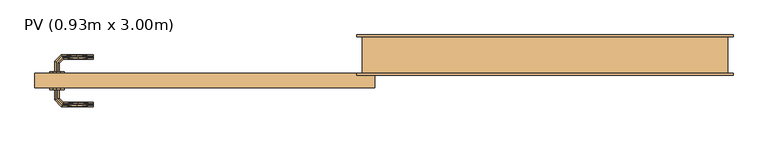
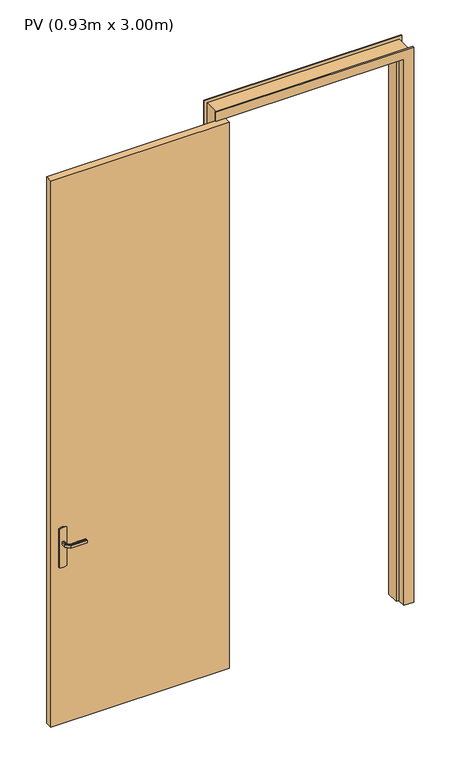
"""IFC4 building model written with IfcOpenShell, lengths in millimetres: door geometry, PV (0.93m x 3.00m)."""

from ifc_helpers import new_model, si_unit, frame, origin, origin_with_axes, place, context, project, spatial, polyline, outline, extrude, faceted_brep, source, transform, mapped, element, save


def pv_0_93m_x_3_00m_f64e4307(model_context):
    return source(origin(), model_context, "Body", "SolidModel", [
        extrude(outline(polyline([(1085.3589838, -765.0), (1083.9960169, -775.3527618), (1080.0, -785.0), (870.0, -785.0), (866.0039831, -775.3527618), (864.6410162, -765.0), (866.0039831, -754.6472382), (870.0, -745.0), (1080.0, -745.0), (1083.9960169, -754.6472382), (1085.3589838, -765.0)])), frame((0.0, -45.0, 0.0), z_axis=(0.0, 1.0, 0.0), x_axis=(0.0, 0.0, 1.0)), (0.0, 0.0, 1.0), 5.0),
        extrude(outline(polyline([(-825.0, -40.0), (-825.0, 0.0), (105.0, 0.0), (105.0, -40.0), (-825.0, -40.0)])), origin_with_axes(), (0.0, 0.0, 1.0), 3010.0),
        extrude(outline(polyline([(1080.0, -785.0), (870.0, -785.0), (866.0039831, -775.3527618), (864.6410162, -765.0), (866.0039831, -754.6472382), (870.0, -745.0), (1080.0, -745.0), (1083.9960169, -754.6472382), (1085.3589838, -765.0), (1083.9960169, -775.3527618), (1080.0, -785.0)])), frame((0.0, 0.0, 0.0), z_axis=(0.0, 1.0, 0.0), x_axis=(0.0, 0.0, 1.0)), (0.0, 0.0, 1.0), 5.0),
        faceted_brep([(1070.0, 100.0, 0.0), (1070.0, 0.0, 0.0), (1085.0, 0.0, 0.0), (1085.0, -5.0, 0.0), (1035.0, -5.0, 0.0), (1035.0, 40.0, 0.0), (1020.0, 40.0, 0.0), (1020.0, 105.0, 0.0), (1085.0, 105.0, 0.0), (1085.0, 100.0, 0.0), (1085.0, 100.0, 3060.0), (55.0, 100.0, 3060.0), (55.0, 100.0, 0.0), (70.0, 100.0, 0.0), (70.0, 100.0, 3045.0), (1070.0, 100.0, 3045.0), (1085.0, 105.0, 3060.0), (1020.0, 105.0, 2995.0), (120.0, 105.0, 2995.0), (120.0, 105.0, 0.0), (55.0, 105.0, 0.0), (55.0, 105.0, 3060.0), (1020.0, 40.0, 2995.0), (1035.0, 40.0, 3010.0), (105.0, 40.0, 3010.0), (105.0, 40.0, 0.0), (120.0, 40.0, 0.0), (120.0, 40.0, 2995.0), (1035.0, -5.0, 3010.0), (1085.0, -5.0, 3060.0), (55.0, -5.0, 3060.0), (55.0, -5.0, 0.0), (105.0, -5.0, 0.0), (105.0, -5.0, 3010.0), (1085.0, 0.0, 3060.0), (1070.0, 0.0, 3045.0), (70.0, 0.0, 3045.0), (70.0, 0.0, 0.0), (55.0, 0.0, 0.0), (55.0, 0.0, 3060.0)], [[[0, 1, 2, 3, 4, 5, 6, 7, 8, 9]], [[9, 10, 11, 12, 13, 14, 15, 0]], [[8, 16, 10, 9]], [[7, 17, 18, 19, 20, 21, 16, 8]], [[7, 6, 22, 17]], [[5, 23, 24, 25, 26, 27, 22, 6]], [[5, 4, 28, 23]], [[3, 29, 30, 31, 32, 33, 28, 4]], [[2, 34, 29, 3]], [[1, 35, 36, 37, 38, 39, 34, 2]], [[0, 15, 35, 1]], [[14, 13, 37, 36]], [[13, 12, 20, 19, 26, 25, 32, 31, 38, 37]], [[21, 20, 12, 11]], [[27, 26, 19, 18]], [[33, 32, 25, 24]], [[39, 38, 31, 30]], [[15, 14, 36, 35]], [[16, 21, 11, 10]], [[22, 27, 18, 17]], [[28, 33, 24, 23]], [[34, 39, 30, 29]]]),
        faceted_brep([(-762.9747013, -45.0, 992.2195592), (-767.0252987, -45.0, 992.2195592), (-771.0, -45.0, 993.0), (-771.0, -45.0, 1007.0), (-767.0252987, -45.0, 1007.7804408), (-762.9747013, -45.0, 1007.7804408), (-759.0, -45.0, 1007.0), (-759.0, -45.0, 993.0), (-759.0, -67.4852045, 1007.0), (-759.0, -67.4852045, 993.0), (-762.9747013, -69.1315797, 1007.7804408), (-767.0252987, -70.8093921, 1007.7804408), (-750.8389062, -86.9957845, 1007.7804408), (-749.1610938, -82.9451872, 1007.7804408), (-771.0, -72.4557673, 1007.0), (-771.0, -72.4557673, 993.0), (-767.0252987, -70.8093921, 992.2195592), (-762.9747013, -69.1315797, 992.2195592), (-749.1610938, -82.9451872, 992.2195592), (-750.8389062, -86.9957845, 992.2195592), (-747.5147186, -78.9704859, 1007.0), (-747.5147186, -78.9704859, 993.0), (-752.4852814, -90.9704859, 1007.0), (-752.4852814, -90.9704859, 993.0), (-664.9542163, -82.9451872, 1007.7804408), (-664.9542163, -86.9957845, 1007.7804408), (-664.9542163, -90.9704859, 1007.0), (-664.9542163, -90.9704859, 993.0), (-664.9542163, -86.9957845, 992.2195592), (-664.9542163, -82.9451872, 992.2195592), (-664.9542163, -78.9704859, 993.0), (-664.9542163, -78.9704859, 1007.0), (-706.2344675, -78.9704859, 1007.0), (-706.2344794, -78.9704859, 993.0), (-707.0576551, -84.9704859, 1007.8786868), (-712.5547942, -90.9704859, 1007.0), (-712.5547957, -90.9704859, 993.0), (-707.0576549, -84.9704858, 992.1213132)], [[[0, 1, 2, 3, 4, 5, 6, 7]], [[8, 9, 7, 6]], [[5, 10, 8, 6]], [[5, 4, 11, 12, 13, 10]], [[3, 14, 11, 4]], [[14, 3, 2, 15]], [[2, 1, 16, 15]], [[1, 0, 17, 18, 19, 16]], [[0, 7, 9, 17]], [[20, 21, 9, 8]], [[8, 10, 13, 20]], [[14, 22, 12, 11]], [[23, 22, 14, 15]], [[15, 16, 19, 23]], [[17, 9, 21, 18]], [[24, 25, 26, 27, 28, 29, 30, 31]], [[21, 20, 32, 31, 30, 33]], [[34, 24, 32]], [[25, 34, 35]], [[13, 32, 20]], [[24, 31, 32]], [[25, 35, 26]], [[35, 12, 22]], [[34, 12, 35]], [[34, 13, 12]], [[34, 32, 13]], [[24, 34, 25]], [[22, 23, 36, 27, 26, 35]], [[37, 28, 36]], [[36, 28, 27]], [[36, 23, 19]], [[18, 33, 37]], [[33, 18, 21]], [[30, 29, 33]], [[37, 29, 28]], [[37, 33, 29]], [[37, 36, 19]], [[18, 37, 19]]]),
        faceted_brep([(-762.9747013, 5.0, 1007.7804408), (-767.0252987, 5.0, 1007.7804408), (-771.0, 5.0, 1007.0), (-771.0, 5.0, 993.0), (-767.0252987, 5.0, 992.2195592), (-762.9747013, 5.0, 992.2195592), (-759.0, 5.0, 993.0), (-759.0, 5.0, 1007.0), (-767.0252987, 31.0045755, 1007.7804408), (-771.0, 32.6509507, 1007.0), (-762.9747013, 29.3267632, 1007.7804408), (-749.2986025, 43.002862, 1007.7804408), (-750.9764148, 47.0534593, 1007.7804408), (-759.0, 27.680388, 1007.0), (-759.0, 27.680388, 993.0), (-762.9747013, 29.3267632, 992.2195592), (-767.0252987, 31.0045755, 992.2195592), (-750.9764148, 47.0534593, 992.2195592), (-749.2986025, 43.002862, 992.2195592), (-771.0, 32.6509507, 993.0), (-752.62279, 51.0281607, 1007.0), (-747.6522273, 39.0281607, 1007.0), (-747.6522273, 39.0281607, 993.0), (-752.62279, 51.0281607, 993.0), (-664.9813594, 51.0281607, 1007.0), (-664.9813594, 47.0534593, 1007.7804408), (-664.9813594, 43.002862, 1007.7804408), (-664.9813594, 39.0281607, 1007.0), (-664.9813594, 39.0281607, 993.0), (-664.9813594, 43.002862, 992.2195592), (-664.9813594, 47.0534593, 992.2195592), (-664.9813594, 51.0281607, 993.0), (-707.1399809, 45.0281607, 1007.8786868), (-712.6923028, 51.0281607, 1007.0), (-706.3167933, 39.0281607, 1007.0), (-706.3167933, 39.0281607, 993.0), (-707.1399811, 45.0281608, 992.1213132), (-712.6923104, 51.0281607, 993.0)], [[[0, 1, 2, 3, 4, 5, 6, 7]], [[2, 1, 8, 9]], [[1, 0, 10, 11, 12, 8]], [[0, 7, 13, 10]], [[14, 13, 7, 6]], [[5, 15, 14, 6]], [[5, 4, 16, 17, 18, 15]], [[3, 19, 16, 4]], [[9, 19, 3, 2]], [[9, 8, 12, 20]], [[10, 13, 21, 11]], [[22, 21, 13, 14]], [[14, 15, 18, 22]], [[16, 19, 23, 17]], [[20, 23, 19, 9]], [[24, 25, 26, 27, 28, 29, 30, 31]], [[32, 25, 33]], [[33, 25, 24]], [[33, 20, 12]], [[11, 34, 32]], [[34, 11, 21]], [[27, 26, 34]], [[32, 26, 25]], [[32, 34, 26]], [[32, 33, 12]], [[11, 32, 12]], [[21, 22, 35, 28, 27, 34]], [[36, 29, 35]], [[30, 36, 37]], [[18, 35, 22]], [[29, 28, 35]], [[30, 37, 31]], [[37, 17, 23]], [[36, 17, 37]], [[36, 18, 17]], [[36, 35, 18]], [[29, 36, 30]], [[23, 20, 33, 24, 31, 37]]]),
    ])


if __name__ == "__main__":
    model = new_model("IFC4")
    model_context = context("Model", 3, world=origin())
    ifc_project = project(units=[si_unit("LENGTHUNIT", "METRE", prefix="MILLI")], contexts=[model_context])
    site = spatial("IfcSite", under=ifc_project)
    building = spatial("IfcBuilding", under=site)
    placement = place(None, origin())
    pv_0_93m_x_3_00m_shape = pv_0_93m_x_3_00m_f64e4307(model_context)
    element("IfcDoor", 1, ObjectType="PV (0.93m x 3.00m)", at=placement, inside=building, context=model_context, shape_type="MappedRepresentation", body=[
        mapped(pv_0_93m_x_3_00m_shape, transform((0.0, 0.0, 0.0), x_axis=(1.0, 0.0, 0.0), y_axis=(0.0, 1.0, 0.0), z_axis=(0.0, 0.0, 1.0))),
    ])
    save(model, "model.ifc")
